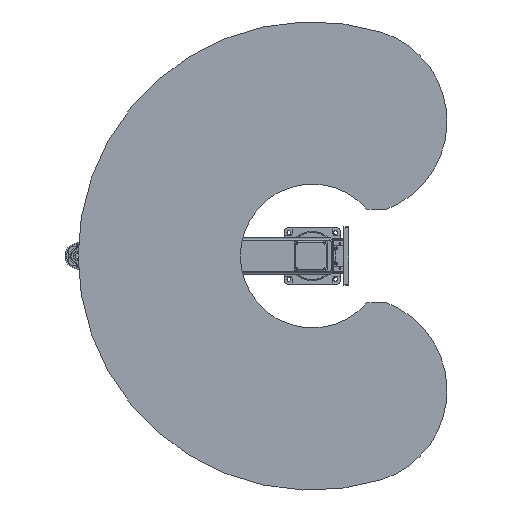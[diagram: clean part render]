
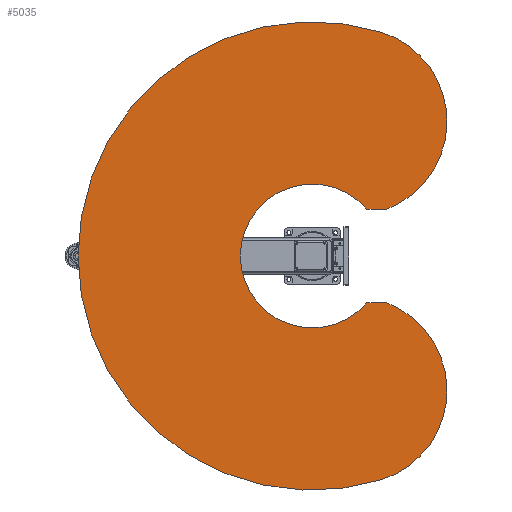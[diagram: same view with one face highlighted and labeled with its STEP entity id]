
A CAD part, front view. The second image highlights one B-rep face of the part: STEP entity #5035.
In plain terms, the highlighted planar face has unit normal (0, -1, 0).
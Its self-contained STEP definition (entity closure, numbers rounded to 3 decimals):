
#5035 = ADVANCED_FACE( '', ( #11912 ), #11913, .F. );
#11912 = FACE_OUTER_BOUND( '', #21050, .T. );
#11913 = PLANE( '', #21051 );
#21050 = EDGE_LOOP( '', ( #36059, #36060, #36061, #36062, #36063, #36064 ) );
#21051 = AXIS2_PLACEMENT_3D( '', #36065, #36066, #36067 );
#36059 = ORIENTED_EDGE( '', *, *, #52720, .F. );
#36060 = ORIENTED_EDGE( '', *, *, #48996, .F. );
#36061 = ORIENTED_EDGE( '', *, *, #52721, .T. );
#36062 = ORIENTED_EDGE( '', *, *, #52722, .F. );
#36063 = ORIENTED_EDGE( '', *, *, #52667, .F. );
#36064 = ORIENTED_EDGE( '', *, *, #52723, .F. );
#36065 = CARTESIAN_POINT( '', ( 573.783, 0., 175.423 ) );
#36066 = DIRECTION( '', ( 0., 1., 0. ) );
#36067 = DIRECTION( '', ( 0., 0., 1. ) );
#48996 = EDGE_CURVE( '', #58120, #58121, #58122, .T. );
#52667 = EDGE_CURVE( '', #63973, #63974, #63975, .T. );
#52720 = EDGE_CURVE( '', #58121, #64044, #64045, .T. );
#52721 = EDGE_CURVE( '', #58120, #64046, #64047, .T. );
#52722 = EDGE_CURVE( '', #63974, #64046, #64048, .T. );
#52723 = EDGE_CURVE( '', #64044, #63973, #64049, .T. );
#58120 = VERTEX_POINT( '', #71774 );
#58121 = VERTEX_POINT( '', #71775 );
#58122 = LINE( '', #71776, #71777 );
#63973 = VERTEX_POINT( '', #81389 );
#63974 = VERTEX_POINT( '', #81390 );
#63975 = CIRCLE( '', #81391, 400. );
#64044 = VERTEX_POINT( '', #81504 );
#64045 = CIRCLE( '', #81505, 400. );
#64046 = VERTEX_POINT( '', #81506 );
#64047 = CIRCLE( '', #81507, 307. );
#64048 = LINE( '', #81508, #81509 );
#64049 = CIRCLE( '', #81510, 1000. );
#71774 = CARTESIAN_POINT( '', ( 200., 0., 232.914 ) );
#71775 = CARTESIAN_POINT( '', ( 200., 0., 317.853 ) );
#71776 = CARTESIAN_POINT( '', ( 200., 0., 232.914 ) );
#71777 = VECTOR( '', #89625, 1000. );
#81389 = CARTESIAN_POINT( '', ( -956.305, 0., 292.372 ) );
#81390 = CARTESIAN_POINT( '', ( -200., 0., 317.853 ) );
#81391 = AXIS2_PLACEMENT_3D( '', #94200, #94201, #94202 );
#81504 = CARTESIAN_POINT( '', ( 956.305, 0., 292.372 ) );
#81505 = AXIS2_PLACEMENT_3D( '', #94250, #94251, #94252 );
#81506 = CARTESIAN_POINT( '', ( -200., 0., 232.914 ) );
#81507 = AXIS2_PLACEMENT_3D( '', #94253, #94254, #94255 );
#81508 = CARTESIAN_POINT( '', ( -200., 0., 317.853 ) );
#81509 = VECTOR( '', #94256, 1000. );
#81510 = AXIS2_PLACEMENT_3D( '', #94257, #94258, #94259 );
#89625 = DIRECTION( '', ( 0., 0., 1. ) );
#94200 = CARTESIAN_POINT( '', ( -573.783, 0., 175.423 ) );
#94201 = DIRECTION( '', ( 0., 1., 0. ) );
#94202 = DIRECTION( '', ( 1., 0., 0. ) );
#94250 = CARTESIAN_POINT( '', ( 573.783, 0., 175.423 ) );
#94251 = DIRECTION( '', ( 0., 1., 0. ) );
#94252 = DIRECTION( '', ( 1., 0., 0. ) );
#94253 = CARTESIAN_POINT( '', ( 0., 0., 0. ) );
#94254 = DIRECTION( '', ( 0., 1., 0. ) );
#94255 = DIRECTION( '', ( 1., 0., 0. ) );
#94256 = DIRECTION( '', ( 0., 0., -1. ) );
#94257 = CARTESIAN_POINT( '', ( 0., 0., 0. ) );
#94258 = DIRECTION( '', ( 0., 1., 0. ) );
#94259 = DIRECTION( '', ( 1., 0., 0. ) );
